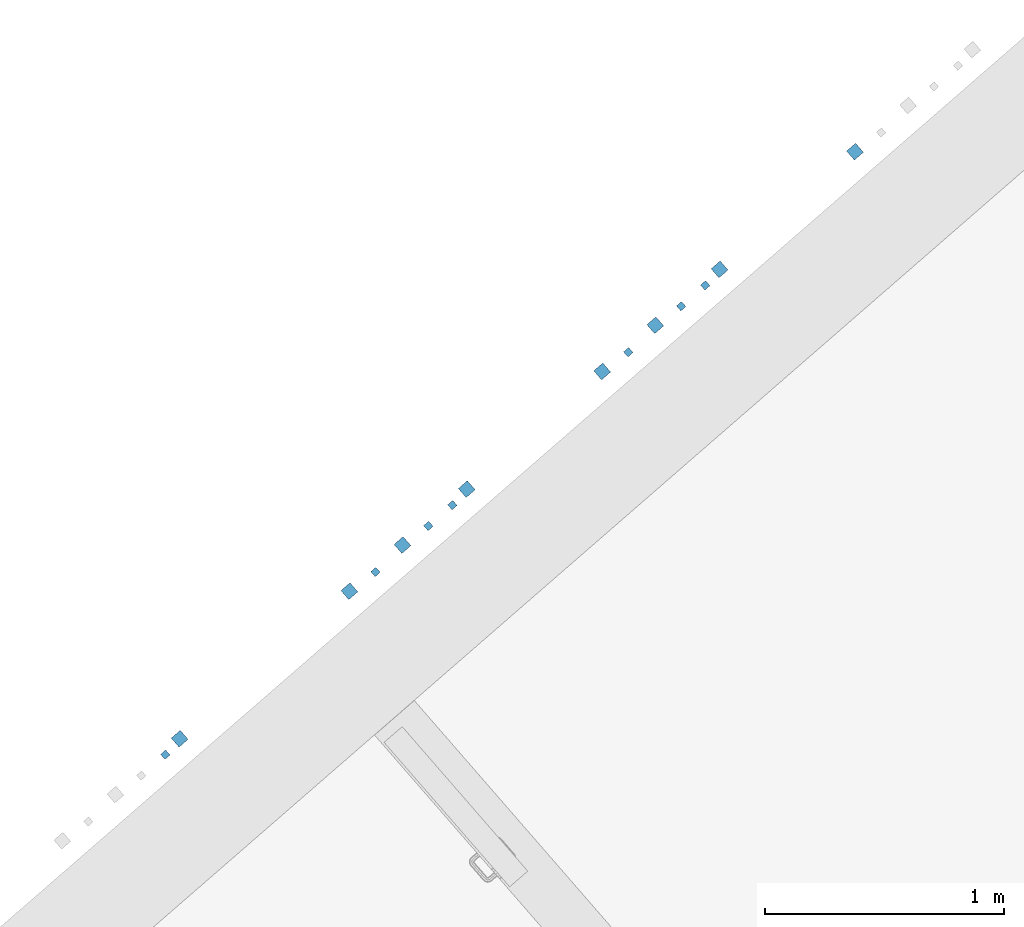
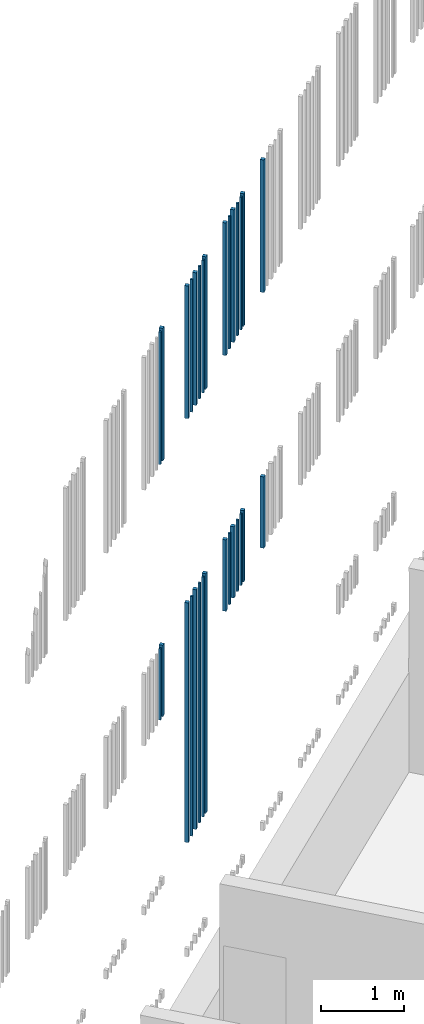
# One storey, part 57 of 124: 30 walls.
"""IFC2X3 building model written with IfcOpenShell, lengths in millimetres."""

import ifcopenshell
import ifcopenshell.guid

model = None  # the IFC model being written
_history = None  # IfcOwnerHistory: only IFC2X3 demands one
_inside = {}  # id of a spatial element -> (the spatial element, [elements in it])
_under = {}  # id of a project, library or spatial element -> (it, [spatial elements below it])
_declared = {}  # id of a project -> (the project, [libraries it declares])
_typed = {}  # id of a type object -> (the type object, [elements of that type])
_made_of = {}  # id of a material, layer set ... -> (it, [elements and type objects made of it])


def new_model(schema):
    """Start an empty IFC model of exactly this schema.

    Asked for "IFC4X3", IfcOpenShell would pick the latest addendum, in which some entities
    have other attributes; the version numbers below select the first issue.
    IFC2X3 requires an IfcOwnerHistory on every rooted entity: one is made here for all.
    """
    global model, _history
    if schema == "IFC4X3":
        model = ifcopenshell.file(schema_version=(4, 3, 0, 0))
    else:
        model = ifcopenshell.file(schema=schema)
    _inside.clear()
    _under.clear()
    _declared.clear()
    _typed.clear()
    _made_of.clear()
    _history = None
    if model.schema == "IFC2X3":
        org = make("IfcOrganization", Name="unknown")
        user = make(
            "IfcPersonAndOrganization",
            ThePerson=make("IfcPerson", FamilyName="unknown"),
            TheOrganization=org,
        )
        app = make(
            "IfcApplication",
            ApplicationDeveloper=org,
            Version="unknown",
            ApplicationFullName="unknown",
            ApplicationIdentifier="unknown",
        )
        _history = make(
            "IfcOwnerHistory",
            OwningUser=user,
            OwningApplication=app,
            ChangeAction="ADDED",
            CreationDate=0,
        )
    return model


def make(cls, **values):
    """One entity of the class cls with the attributes given. An attribute that is None is left unset."""
    return model.create_entity(
        cls, **{name: value for name, value in values.items() if value is not None}
    )


def entity(cls, *values):
    """Any entity or typed value of the class cls, its attributes in the order of the schema. None: left unset."""
    e = model.create_entity(cls)
    for i, value in enumerate(values):
        if value is not None:
            e[i] = value
    return e


def rooted(cls, **values):
    """An entity with a GlobalId (a new one), such as an element, a storey or a relation."""
    return make(cls, GlobalId=ifcopenshell.guid.new(), OwnerHistory=_history, **values)


def si_unit(unit_type, name, prefix=None):
    """IfcSIUnit, for example si_unit("LENGTHUNIT", "METRE", prefix="MILLI")."""
    return make("IfcSIUnit", UnitType=unit_type, Prefix=prefix, Name=name)


def converted_unit(unit_type, name, factor, base, dimensions=None, offset=None):
    """IfcConversionBasedUnit, such as the inch: factor (a typed value) times the base unit."""
    return make(
        "IfcConversionBasedUnit"
        if offset is None
        else "IfcConversionBasedUnitWithOffset",
        ConversionOffset=offset,
        Dimensions=None
        if dimensions is None
        else entity("IfcDimensionalExponents", *dimensions),
        UnitType=unit_type,
        Name=name,
        ConversionFactor=make(
            "IfcMeasureWithUnit", ValueComponent=factor, UnitComponent=base
        ),
    )


def derived_unit(unit_type, elements):
    """IfcDerivedUnit: a product of units, each with its exponent."""
    return make(
        "IfcDerivedUnit",
        Elements=[
            make("IfcDerivedUnitElement", Unit=unit, Exponent=power)
            for unit, power in elements
        ],
        UnitType=unit_type,
    )


def money_unit(currency):
    """IfcMonetaryUnit."""
    return make("IfcMonetaryUnit", Currency=currency)


def assignment(units):
    """IfcUnitAssignment: the units of a project."""
    return None if units is None else make("IfcUnitAssignment", Units=units)


def point(xyz):
    """IfcCartesianPoint."""
    return None if xyz is None else make("IfcCartesianPoint", Coordinates=xyz)


def direction(xyz):
    """IfcDirection."""
    return None if xyz is None else make("IfcDirection", DirectionRatios=xyz)


def frame(location, z_axis=None, x_axis=None):
    """IfcAxis2Placement3D, a coordinate frame: its origin and axes. An axis left out is left unset."""
    return make(
        "IfcAxis2Placement3D",
        Location=point(location),
        Axis=direction(z_axis),
        RefDirection=direction(x_axis),
    )


def origin_with_axes():
    """The frame at (0, 0, 0) with the z axis (0, 0, 1) and the x axis (1, 0, 0) written out."""
    return frame((0.0, 0.0, 0.0), z_axis=(0.0, 0.0, 1.0), x_axis=(1.0, 0.0, 0.0))


def place(relative_to, where):
    """IfcLocalPlacement: puts the frame where relative to a parent placement (None: the world)."""
    return make(
        "IfcLocalPlacement", PlacementRelTo=relative_to, RelativePlacement=where
    )


def context(
    kind, dimensions, precision=None, world=None, true_north=None, identifier=None
):
    """IfcGeometricRepresentationContext, for example the 3D "Model" context."""
    return make(
        "IfcGeometricRepresentationContext",
        ContextIdentifier=identifier,
        ContextType=kind,
        CoordinateSpaceDimension=dimensions,
        Precision=precision,
        WorldCoordinateSystem=world,
        TrueNorth=true_north,
    )


def subcontext(parent, identifier, kind, view, scale=None):
    """IfcGeometricRepresentationSubContext, for example "Body" below "Model"."""
    return make(
        "IfcGeometricRepresentationSubContext",
        ContextIdentifier=identifier,
        ContextType=kind,
        ParentContext=parent,
        TargetScale=scale,
        TargetView=view,
    )


def project(units=None, contexts=None):
    """IfcProject with its units and contexts."""
    return rooted(
        "IfcProject",
        Name="project",
        RepresentationContexts=contexts,
        UnitsInContext=assignment(units),
    )


def spatial(cls, under=None, at=None, **own):
    """A site, building, storey or space (cls), placed at a placement, below another one or the project."""
    s = rooted(cls, ObjectPlacement=at, **own)
    if under is not None:
        _under.setdefault(under.id(), (under, []))[1].append(s)
    return s


def faces_of(points, faces, orient=None, outer=None):
    """IfcFace entities. A face is a list of loops; a loop is a list of indices into points, from 0.

    orient and outer hold one flag for each loop. By default every Orientation is true, the
    first loop of a face is its IfcFaceOuterBound and the others are IfcFaceBound.
    """
    made = []
    for i, loops in enumerate(faces):
        bounds = []
        for j, loop in enumerate(loops):
            is_outer = j == 0 if outer is None else outer[i][j]
            bounds.append(
                make(
                    "IfcFaceOuterBound" if is_outer else "IfcFaceBound",
                    Bound=make("IfcPolyLoop", Polygon=[points[k] for k in loop]),
                    Orientation=True if orient is None else orient[i][j],
                )
            )
        made.append(make("IfcFace", Bounds=bounds))
    return made


def faceted_brep(points, faces, orient=None, outer=None, voids=None):
    """IfcFacetedBrep: a solid bounded by flat faces; with voids (closed shells), ...WithVoids."""
    shared = [point(p) for p in points]
    hull = make("IfcClosedShell", CfsFaces=faces_of(shared, faces, orient, outer))
    if voids is None:
        return make("IfcFacetedBrep", Outer=hull)
    return make(
        "IfcFacetedBrepWithVoids",
        Outer=hull,
        Voids=[
            make(cls, CfsFaces=faces_of(shared, fs, o, b)) for cls, fs, o, b in voids
        ],
    )


def shape(context_of_items, identifier, shape_type, items):
    """IfcShapeRepresentation: the items that make up one representation, for example the "Body"."""
    return make(
        "IfcShapeRepresentation",
        ContextOfItems=context_of_items,
        RepresentationIdentifier=identifier,
        RepresentationType=shape_type,
        Items=items,
    )


def material(Name=None, Category=None):
    """IfcMaterial."""
    return make("IfcMaterial", Name=Name, Category=Category)


def made_of(thing, what):
    """Note that an element or type object is made of a material, layer set ...; save() writes the relation."""
    if what is not None:
        _made_of.setdefault(what.id(), (what, []))[1].append(thing)
    return thing


def type_object(cls, material=None, **own):
    """A type object (cls), such as IfcWallType, which elements share."""
    return made_of(rooted(cls, **own), material)


def element(
    cls,
    number,
    at=None,
    inside=None,
    cuts=None,
    type_object=None,
    material=None,
    context=None,
    identifier="Body",
    shape_type=None,
    held_by="IfcProductDefinitionShape",
    body=None,
    shapes=None,
    **own,
):
    """One element of the class cls, such as IfcWall. Its Tag is "e" and its number.

    at: its placement. inside: the storey or other place that contains it. cuts: it is an
    opening in that element (IfcRelVoidsElement). A single representation is given by context,
    identifier, shape_type and body (its items); several are given by shapes. held_by: the class
    of the entity that holds the representations. save() writes the other relations.
    """
    e = rooted(cls, Tag="e%d" % number, ObjectPlacement=at, **own)
    if body is not None:
        shapes = [shape(context, identifier, shape_type, body)]
    if shapes is not None:
        e.Representation = make(held_by, Representations=shapes)
    if inside is not None:
        _inside.setdefault(inside.id(), (inside, []))[1].append(e)
    if cuts is not None:
        rooted(
            "IfcRelVoidsElement", RelatingBuildingElement=cuts, RelatedOpeningElement=e
        )
    if type_object is not None:
        _typed.setdefault(type_object.id(), (type_object, []))[1].append(e)
    return made_of(e, material)


def aggregate(whole, parts):
    """IfcRelAggregates: a whole, such as a stair, and the parts it consists of."""
    return rooted("IfcRelAggregates", RelatingObject=whole, RelatedObjects=parts)


def save(model, path):
    """Write the relations noted so far, then the file.

    IfcRelAggregates (storeys below a building ...), IfcRelContainedInSpatialStructure (elements
    in a storey), IfcRelDefinesByType, IfcRelAssociatesMaterial and IfcRelDeclares: one each for
    every whole, place, type object, material and project.
    """
    for whole, parts in _under.values():
        aggregate(whole, parts)
    for where, things in _inside.values():
        rooted(
            "IfcRelContainedInSpatialStructure",
            RelatedElements=things,
            RelatingStructure=where,
        )
    for kind, things in _typed.values():
        rooted("IfcRelDefinesByType", RelatedObjects=things, RelatingType=kind)
    for what, things in _made_of.values():
        rooted("IfcRelAssociatesMaterial", RelatedObjects=things, RelatingMaterial=what)
    for by, libraries in _declared.values():
        rooted("IfcRelDeclares", RelatingContext=by, RelatedDefinitions=libraries)
    model.write(path)


model = new_model("IFC2X3")

# Units and contexts
model_context = context("Model", 3, precision=1e-05, world=origin_with_axes(), true_north=direction((0.0, 1.0)))
body_context = subcontext(model_context, "Body", "Model", "MODEL_VIEW")
ifc_project = project(units=[si_unit("LENGTHUNIT", "METRE", prefix="MILLI"), si_unit("AREAUNIT", "SQUARE_METRE"), si_unit("VOLUMEUNIT", "CUBIC_METRE"), converted_unit("PLANEANGLEUNIT", "DEGREE", entity("IfcPlaneAngleMeasure", 0.0174532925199), si_unit("PLANEANGLEUNIT", "RADIAN"), dimensions=[0, 0, 0, 0, 0, 0, 0]), si_unit("SOLIDANGLEUNIT", "STERADIAN"), money_unit("EUR"), converted_unit("TIMEUNIT", "Year", entity("IfcTimeMeasure", 31556926.0), si_unit("TIMEUNIT", "SECOND"), dimensions=[0, 0, 1, 0, 0, 0, 0]), si_unit("MASSUNIT", "GRAM", prefix="KILO"), si_unit("THERMODYNAMICTEMPERATUREUNIT", "DEGREE_CELSIUS"), si_unit("LUMINOUSINTENSITYUNIT", "LUMEN"), si_unit("ENERGYUNIT", "JOULE", prefix="MEGA"), derived_unit("THERMALCONDUCTANCEUNIT", [(si_unit("POWERUNIT", "WATT"), 1), (si_unit("LENGTHUNIT", "METRE"), -1), (si_unit("THERMODYNAMICTEMPERATUREUNIT", "KELVIN"), -1)]), derived_unit("SPECIFICHEATCAPACITYUNIT", [(si_unit("ENERGYUNIT", "JOULE"), 1), (si_unit("MASSUNIT", "GRAM", prefix="KILO"), -1), (si_unit("THERMODYNAMICTEMPERATUREUNIT", "KELVIN"), -1)]), derived_unit("MASSDENSITYUNIT", [(si_unit("MASSUNIT", "GRAM", prefix="KILO"), 1), (si_unit("VOLUMEUNIT", "CUBIC_METRE"), -1)])], contexts=[model_context])

# Site, building, storey
site_placement = place(None, origin_with_axes())
site = spatial("IfcSite", under=ifc_project, at=site_placement, Name="Site", CompositionType="ELEMENT")
building_placement = place(site_placement, origin_with_axes())
building = spatial("IfcBuilding", under=site, at=building_placement, Name="Building", CompositionType="ELEMENT")
storey_placement = place(building_placement, frame((0.0, 0.0, -1615.0), z_axis=(0.0, 0.0, 1.0), x_axis=(1.0, 0.0, 0.0)))
storey = spatial("IfcBuildingStorey", under=building, at=storey_placement, Name="0  korrus", CompositionType="ELEMENT", Elevation=-1615.0)

# Walls
ifc_material = material(Name="Site specified")
wall_type = type_object("IfcWallType", Name="Puitfassaadi ribistik", PredefinedType="NOTDEFINED")
wall_1_placement = place(storey_placement, frame((153514.069, 103484.16004, 9530.0), z_axis=(0.0, 0.0, 1.0), x_axis=(0.754709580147, 0.656059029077, 0.0)))
element("IfcWall", 1, at=wall_1_placement, inside=storey, type_object=wall_type, material=ifc_material, Name="Site specified", context=body_context, shape_type="Brep", body=[
    faceted_brep([(25.0, 25.0, 1950.0), (25.0, 25.0, 0.0), (-25.0, 25.0, 0.0), (-25.0, 25.0, 1950.0), (25.0, -25.0, 1950.0), (25.0, -25.0, 0.0), (-25.0, -25.0, 0.0), (-25.0, -25.0, 1950.0)], [[[0, 1, 2, 3]], [[4, 5, 1, 0]], [[2, 1, 5, 6]], [[3, 2, 6, 7]], [[4, 0, 3, 7]], [[7, 6, 5, 4]]]),
])
wall_2_placement = place(storey_placement, frame((153401.288708, 103371.546484, 9530.0), z_axis=(0.0, 0.0, 1.0), x_axis=(0.754709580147, 0.656059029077, 0.0)))
element("IfcWall", 2, at=wall_2_placement, inside=storey, type_object=wall_type, material=ifc_material, Name="Site specified", context=body_context, shape_type="Brep", body=[
    faceted_brep([(14.0, 14.0, 1950.0), (14.0, 14.0, 0.0), (-14.0, 14.0, 0.0), (-14.0, 14.0, 1950.0), (14.0, -14.0, 1950.0), (14.0, -14.0, 0.0), (-14.0, -14.0, 0.0), (-14.0, -14.0, 1950.0)], [[[0, 1, 2, 3]], [[4, 5, 1, 0]], [[2, 1, 5, 6]], [[3, 2, 6, 7]], [[4, 0, 3, 7]], [[7, 6, 5, 4]]]),
])
wall_3_placement = place(storey_placement, frame((153722.794966, 103651.027611, 5771.0), z_axis=(0.0, 0.0, 1.0), x_axis=(0.754709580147, 0.656059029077, 0.0)))
element("IfcWall", 3, at=wall_3_placement, inside=storey, type_object=wall_type, material=ifc_material, Name="Site specified", context=body_context, shape_type="Brep", body=[
    faceted_brep([(14.0, 14.0, 1050.0), (14.0, 14.0, 0.0), (-14.0, 14.0, 0.0), (-14.0, 14.0, 1050.0), (14.0, -14.0, 1050.0), (14.0, -14.0, 0.0), (-14.0, -14.0, 0.0), (-14.0, -14.0, 1050.0)], [[[0, 1, 2, 3]], [[4, 5, 1, 0]], [[2, 1, 5, 6]], [[3, 2, 6, 7]], [[4, 0, 3, 7]], [[7, 6, 5, 4]]]),
])
for number, where, z_axis, x_axis, name in (
    (4, (153782.749862, 103717.72075, 5771.0), (0.0, 0.0, 1.0), (0.754709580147, 0.656059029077, 0.0), "Site specified"),
    (5, (153514.069, 103484.16004, 5771.0), (0.0, 0.0, 1.0), (0.754709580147, 0.656059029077, 0.0), "Site specified"),
):
    element("IfcWall", number, at=place(storey_placement, frame(where, z_axis=z_axis, x_axis=x_axis)), inside=storey, type_object=wall_type, material=ifc_material, Name=name, context=body_context, shape_type="Brep", body=[
        faceted_brep([(25.0, 25.0, 1050.0), (25.0, 25.0, 0.0), (-25.0, 25.0, 0.0), (-25.0, 25.0, 1050.0), (25.0, -25.0, 1050.0), (25.0, -25.0, 0.0), (-25.0, -25.0, 0.0), (-25.0, -25.0, 1050.0)], [[[0, 1, 2, 3]], [[4, 5, 1, 0]], [[2, 1, 5, 6]], [[3, 2, 6, 7]], [[4, 0, 3, 7]], [[7, 6, 5, 4]]]),
    ])
wall_4_placement = place(storey_placement, frame((153401.288708, 103371.546484, 5771.0), z_axis=(0.0, 0.0, 1.0), x_axis=(0.754709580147, 0.656059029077, 0.0)))
element("IfcWall", 6, at=wall_4_placement, inside=storey, type_object=wall_type, material=ifc_material, Name="Site specified", context=body_context, shape_type="Brep", body=[
    faceted_brep([(14.0, 14.0, 1050.0), (14.0, 14.0, 0.0), (-14.0, 14.0, 0.0), (-14.0, 14.0, 1050.0), (14.0, -14.0, 1050.0), (14.0, -14.0, 0.0), (-14.0, -14.0, 0.0), (-14.0, -14.0, 1050.0)], [[[0, 1, 2, 3]], [[4, 5, 1, 0]], [[2, 1, 5, 6]], [[3, 2, 6, 7]], [[4, 0, 3, 7]], [[7, 6, 5, 4]]]),
])
wall_5_placement = place(storey_placement, frame((153722.794966, 103651.027611, 9530.0), z_axis=(0.0, 0.0, 1.0), x_axis=(0.754709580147, 0.656059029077, 0.0)))
element("IfcWall", 7, at=wall_5_placement, inside=storey, type_object=wall_type, material=ifc_material, Name="Site specified", context=body_context, shape_type="Brep", body=[
    faceted_brep([(14.0, 14.0, 1950.0), (14.0, 14.0, 0.0), (-14.0, 14.0, 0.0), (-14.0, 14.0, 1950.0), (14.0, -14.0, 1950.0), (14.0, -14.0, 0.0), (-14.0, -14.0, 0.0), (-14.0, -14.0, 1950.0)], [[[0, 1, 2, 3]], [[4, 5, 1, 0]], [[2, 1, 5, 6]], [[3, 2, 6, 7]], [[4, 0, 3, 7]], [[7, 6, 5, 4]]]),
])
wall_6_placement = place(storey_placement, frame((153782.749862, 103717.72075, 9530.0), z_axis=(0.0, 0.0, 1.0), x_axis=(0.754709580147, 0.656059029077, 0.0)))
element("IfcWall", 8, at=wall_6_placement, inside=storey, type_object=wall_type, material=ifc_material, Name="Site specified", context=body_context, shape_type="Brep", body=[
    faceted_brep([(25.0, 25.0, 1950.0), (25.0, 25.0, 0.0), (-25.0, 25.0, 0.0), (-25.0, 25.0, 1950.0), (25.0, -25.0, 1950.0), (25.0, -25.0, 0.0), (-25.0, -25.0, 0.0), (-25.0, -25.0, 1950.0)], [[[0, 1, 2, 3]], [[4, 5, 1, 0]], [[2, 1, 5, 6]], [[3, 2, 6, 7]], [[4, 0, 3, 7]], [[7, 6, 5, 4]]]),
])
wall_7_placement = place(storey_placement, frame((153622.418593, 103563.771761, 9530.0), z_axis=(0.0, 0.0, 1.0), x_axis=(0.754709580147, 0.656059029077, 0.0)))
element("IfcWall", 9, at=wall_7_placement, inside=storey, type_object=wall_type, material=ifc_material, Name="Site specified", context=body_context, shape_type="Brep", body=[
    faceted_brep([(14.0, 14.0, 1950.0), (14.0, 14.0, 0.0), (-14.0, 14.0, 0.0), (-14.0, 14.0, 1950.0), (14.0, -14.0, 1950.0), (14.0, -14.0, 0.0), (-14.0, -14.0, 0.0), (-14.0, -14.0, 1950.0)], [[[0, 1, 2, 3]], [[4, 5, 1, 0]], [[2, 1, 5, 6]], [[3, 2, 6, 7]], [[4, 0, 3, 7]], [[7, 6, 5, 4]]]),
])
wall_8_placement = place(storey_placement, frame((153292.184385, 103291.278687, 9530.0), z_axis=(0.0, 0.0, 1.0), x_axis=(0.754709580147, 0.656059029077, 0.0)))
element("IfcWall", 10, at=wall_8_placement, inside=storey, type_object=wall_type, material=ifc_material, Name="Site specified", context=body_context, shape_type="Brep", body=[
    faceted_brep([(25.0, 25.0, 1950.0), (25.0, 25.0, 0.0), (-25.0, 25.0, 0.0), (-25.0, 25.0, 1950.0), (25.0, -25.0, 1950.0), (25.0, -25.0, 0.0), (-25.0, -25.0, 0.0), (-25.0, -25.0, 1950.0)], [[[0, 1, 2, 3]], [[4, 5, 1, 0]], [[2, 1, 5, 6]], [[3, 2, 6, 7]], [[4, 0, 3, 7]], [[7, 6, 5, 4]]]),
])
wall_9_placement = place(storey_placement, frame((153622.418593, 103563.771761, 5771.0), z_axis=(0.0, 0.0, 1.0), x_axis=(0.754709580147, 0.656059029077, 0.0)))
element("IfcWall", 11, at=wall_9_placement, inside=storey, type_object=wall_type, material=ifc_material, Name="Site specified", context=body_context, shape_type="Brep", body=[
    faceted_brep([(14.0, 14.0, 1050.0), (14.0, 14.0, 0.0), (-14.0, 14.0, 0.0), (-14.0, 14.0, 1050.0), (14.0, -14.0, 1050.0), (14.0, -14.0, 0.0), (-14.0, -14.0, 0.0), (-14.0, -14.0, 1050.0)], [[[0, 1, 2, 3]], [[4, 5, 1, 0]], [[2, 1, 5, 6]], [[3, 2, 6, 7]], [[4, 0, 3, 7]], [[7, 6, 5, 4]]]),
])
wall_10_placement = place(storey_placement, frame((154348.777795, 104209.761325, 9530.0), z_axis=(0.0, 0.0, 1.0), x_axis=(0.754709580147, 0.656059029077, 0.0)))
element("IfcWall", 12, at=wall_10_placement, inside=storey, type_object=wall_type, material=ifc_material, Name="Site specified", context=body_context, shape_type="Brep", body=[
    faceted_brep([(25.0, 25.0, 1950.0), (25.0, 25.0, 0.0), (-25.0, 25.0, 0.0), (-25.0, 25.0, 1950.0), (25.0, -25.0, 1950.0), (25.0, -25.0, 0.0), (-25.0, -25.0, 0.0), (-25.0, -25.0, 1950.0)], [[[0, 1, 2, 3]], [[4, 5, 1, 0]], [[2, 1, 5, 6]], [[3, 2, 6, 7]], [[4, 0, 3, 7]], [[7, 6, 5, 4]]]),
])
for number, where, z_axis, x_axis, name in (
    (13, (154348.777795, 104209.761325, 5771.0), (0.0, 0.0, 1.0), (0.754709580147, 0.656059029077, 0.0), "Site specified"),
    (14, (153292.184385, 103291.278687, 5771.0), (0.0, 0.0, 1.0), (0.754709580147, 0.656059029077, 0.0), "Site specified"),
):
    element("IfcWall", number, at=place(storey_placement, frame(where, z_axis=z_axis, x_axis=x_axis)), inside=storey, type_object=wall_type, material=ifc_material, Name=name, context=body_context, shape_type="Brep", body=[
        faceted_brep([(25.0, 25.0, 1050.0), (25.0, 25.0, 0.0), (-25.0, 25.0, 0.0), (-25.0, 25.0, 1050.0), (25.0, -25.0, 1050.0), (25.0, -25.0, 0.0), (-25.0, -25.0, 0.0), (-25.0, -25.0, 1050.0)], [[[0, 1, 2, 3]], [[4, 5, 1, 0]], [[2, 1, 5, 6]], [[3, 2, 6, 7]], [[4, 0, 3, 7]], [[7, 6, 5, 4]]]),
    ])
wall_11_placement = place(storey_placement, frame((151526.168218, 101756.104253, 9530.0), z_axis=(0.0, 0.0, 1.0), x_axis=(0.754709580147, 0.656059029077, 0.0)))
element("IfcWall", 15, at=wall_11_placement, inside=storey, type_object=wall_type, material=ifc_material, Name="Site specified", context=body_context, shape_type="Brep", body=[
    faceted_brep([(25.0, 25.0, 1950.0), (25.0, 25.0, 0.0), (-25.0, 25.0, 0.0), (-25.0, 25.0, 1950.0), (25.0, -25.0, 1950.0), (25.0, -25.0, 0.0), (-25.0, -25.0, 0.0), (-25.0, -25.0, 1950.0)], [[[0, 1, 2, 3]], [[4, 5, 1, 0]], [[2, 1, 5, 6]], [[3, 2, 6, 7]], [[4, 0, 3, 7]], [[7, 6, 5, 4]]]),
])
wall_12_placement = place(storey_placement, frame((151466.213322, 101689.411114, 9530.0), z_axis=(0.0, 0.0, 1.0), x_axis=(0.754709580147, 0.656059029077, 0.0)))
element("IfcWall", 16, at=wall_12_placement, inside=storey, type_object=wall_type, material=ifc_material, Name="Site specified", context=body_context, shape_type="Brep", body=[
    faceted_brep([(14.0, 14.0, 1950.0), (14.0, 14.0, 0.0), (-14.0, 14.0, 0.0), (-14.0, 14.0, 1950.0), (14.0, -14.0, 1950.0), (14.0, -14.0, 0.0), (-14.0, -14.0, 0.0), (-14.0, -14.0, 1950.0)], [[[0, 1, 2, 3]], [[4, 5, 1, 0]], [[2, 1, 5, 6]], [[3, 2, 6, 7]], [[4, 0, 3, 7]], [[7, 6, 5, 4]]]),
])
wall_13_placement = place(storey_placement, frame((151526.168218, 101756.104253, 5771.0), z_axis=(0.0, 0.0, 1.0), x_axis=(0.754709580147, 0.656059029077, 0.0)))
element("IfcWall", 17, at=wall_13_placement, inside=storey, type_object=wall_type, material=ifc_material, Name="Site specified", context=body_context, shape_type="Brep", body=[
    faceted_brep([(25.0, 25.0, 1050.0), (25.0, 25.0, 0.0), (-25.0, 25.0, 0.0), (-25.0, 25.0, 1050.0), (25.0, -25.0, 1050.0), (25.0, -25.0, 0.0), (-25.0, -25.0, 0.0), (-25.0, -25.0, 1050.0)], [[[0, 1, 2, 3]], [[4, 5, 1, 0]], [[2, 1, 5, 6]], [[3, 2, 6, 7]], [[4, 0, 3, 7]], [[7, 6, 5, 4]]]),
])
wall_14_placement = place(storey_placement, frame((151466.213322, 101689.411114, 5771.0), z_axis=(0.0, 0.0, 1.0), x_axis=(0.754709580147, 0.656059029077, 0.0)))
element("IfcWall", 18, at=wall_14_placement, inside=storey, type_object=wall_type, material=ifc_material, Name="Site specified", context=body_context, shape_type="Brep", body=[
    faceted_brep([(14.0, 14.0, 1050.0), (14.0, 14.0, 0.0), (-14.0, 14.0, 0.0), (-14.0, 14.0, 1050.0), (14.0, -14.0, 1050.0), (14.0, -14.0, 0.0), (-14.0, -14.0, 0.0), (-14.0, -14.0, 1050.0)], [[[0, 1, 2, 3]], [[4, 5, 1, 0]], [[2, 1, 5, 6]], [[3, 2, 6, 7]], [[4, 0, 3, 7]], [[7, 6, 5, 4]]]),
])
for number, where, z_axis, x_axis, name in (
    (19, (152457.475588, 102565.677399, 9530.0), (0.0, 0.0, 1.0), (0.754709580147, 0.656059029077, 0.0), "Site specified"),
    (20, (152726.15645, 102799.238109, 9530.0), (0.0, 0.0, 1.0), (0.754709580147, 0.656059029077, 0.0), "Site specified"),
):
    element("IfcWall", number, at=place(storey_placement, frame(where, z_axis=z_axis, x_axis=x_axis)), inside=storey, type_object=wall_type, material=ifc_material, Name=name, context=body_context, shape_type="Brep", body=[
        faceted_brep([(25.0, 25.0, 1950.0), (25.0, 25.0, 0.0), (-25.0, 25.0, 0.0), (-25.0, 25.0, 1950.0), (25.0, -25.0, 1950.0), (25.0, -25.0, 0.0), (-25.0, -25.0, 0.0), (-25.0, -25.0, 1950.0)], [[[0, 1, 2, 3]], [[4, 5, 1, 0]], [[2, 1, 5, 6]], [[3, 2, 6, 7]], [[4, 0, 3, 7]], [[7, 6, 5, 4]]]),
    ])
for number, where, z_axis, x_axis, name in (
    (21, (152565.825181, 102645.28912, 9530.0), (0.0, 0.0, 1.0), (0.754709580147, 0.656059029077, 0.0), "Site specified"),
    (22, (152666.201554, 102732.54497, 9530.0), (0.0, 0.0, 1.0), (0.754709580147, 0.656059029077, 0.0), "Site specified"),
    (23, (152344.695295, 102453.063844, 9530.0), (0.0, 0.0, 1.0), (0.754709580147, 0.656059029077, 0.0), "Site specified"),
):
    element("IfcWall", number, at=place(storey_placement, frame(where, z_axis=z_axis, x_axis=x_axis)), inside=storey, type_object=wall_type, material=ifc_material, Name=name, context=body_context, shape_type="Brep", body=[
        faceted_brep([(14.0, 14.0, 1950.0), (14.0, 14.0, 0.0), (-14.0, 14.0, 0.0), (-14.0, 14.0, 1950.0), (14.0, -14.0, 1950.0), (14.0, -14.0, 0.0), (-14.0, -14.0, 0.0), (-14.0, -14.0, 1950.0)], [[[0, 1, 2, 3]], [[4, 5, 1, 0]], [[2, 1, 5, 6]], [[3, 2, 6, 7]], [[4, 0, 3, 7]], [[7, 6, 5, 4]]]),
    ])
for number, where, z_axis, x_axis, name in (
    (24, (152457.475588, 102565.677399, 3295.66110235), (0.0, 0.0, 1.0), (0.754709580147, 0.656059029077, 0.0), "Site specified"),
    (25, (152726.15645, 102799.238109, 3295.66110235), (0.0, 0.0, 1.0), (0.754709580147, 0.656059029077, 0.0), "Site specified"),
):
    element("IfcWall", number, at=place(storey_placement, frame(where, z_axis=z_axis, x_axis=x_axis)), inside=storey, type_object=wall_type, material=ifc_material, Name=name, context=body_context, shape_type="Brep", body=[
        faceted_brep([(25.0, 25.0, 3525.33889765), (25.0, 25.0, 0.0), (-25.0, 25.0, 0.0), (-25.0, 25.0, 3525.33889765), (25.0, -25.0, 3525.33889765), (25.0, -25.0, 0.0), (-25.0, -25.0, 0.0), (-25.0, -25.0, 3525.33889765)], [[[0, 1, 2, 3]], [[4, 5, 1, 0]], [[2, 1, 5, 6]], [[3, 2, 6, 7]], [[4, 0, 3, 7]], [[7, 6, 5, 4]]]),
    ])
for number, where, z_axis, x_axis, name in (
    (26, (152565.825181, 102645.28912, 3295.66110235), (0.0, 0.0, 1.0), (0.754709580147, 0.656059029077, 0.0), "Site specified"),
    (27, (152666.201554, 102732.54497, 3295.66110235), (0.0, 0.0, 1.0), (0.754709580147, 0.656059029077, 0.0), "Site specified"),
    (28, (152344.695295, 102453.063844, 3295.66110235), (0.0, 0.0, 1.0), (0.754709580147, 0.656059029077, 0.0), "Site specified"),
):
    element("IfcWall", number, at=place(storey_placement, frame(where, z_axis=z_axis, x_axis=x_axis)), inside=storey, type_object=wall_type, material=ifc_material, Name=name, context=body_context, shape_type="Brep", body=[
        faceted_brep([(14.0, 14.0, 3525.33889765), (14.0, 14.0, 0.0), (-14.0, 14.0, 0.0), (-14.0, 14.0, 3525.33889765), (14.0, -14.0, 3525.33889765), (14.0, -14.0, 0.0), (-14.0, -14.0, 0.0), (-14.0, -14.0, 3525.33889765)], [[[0, 1, 2, 3]], [[4, 5, 1, 0]], [[2, 1, 5, 6]], [[3, 2, 6, 7]], [[4, 0, 3, 7]], [[7, 6, 5, 4]]]),
    ])
wall_15_placement = place(storey_placement, frame((152235.590973, 102372.796046, 3295.66110235), z_axis=(0.0, 0.0, 1.0), x_axis=(0.754709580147, 0.656059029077, 0.0)))
element("IfcWall", 29, at=wall_15_placement, inside=storey, type_object=wall_type, material=ifc_material, Name="Site specified", context=body_context, shape_type="Brep", body=[
    faceted_brep([(25.0, 25.0, 3525.33889765), (25.0, 25.0, 0.0), (-25.0, 25.0, 0.0), (-25.0, 25.0, 3525.33889765), (25.0, -25.0, 3525.33889765), (25.0, -25.0, 0.0), (-25.0, -25.0, 0.0), (-25.0, -25.0, 3525.33889765)], [[[0, 1, 2, 3]], [[4, 5, 1, 0]], [[2, 1, 5, 6]], [[3, 2, 6, 7]], [[4, 0, 3, 7]], [[7, 6, 5, 4]]]),
])
wall_16_placement = place(storey_placement, frame((152235.590973, 102372.796046, 9530.0), z_axis=(0.0, 0.0, 1.0), x_axis=(0.754709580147, 0.656059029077, 0.0)))
element("IfcWall", 30, at=wall_16_placement, inside=storey, type_object=wall_type, material=ifc_material, Name="Site specified", context=body_context, shape_type="Brep", body=[
    faceted_brep([(25.0, 25.0, 1950.0), (25.0, 25.0, 0.0), (-25.0, 25.0, 0.0), (-25.0, 25.0, 1950.0), (25.0, -25.0, 1950.0), (25.0, -25.0, 0.0), (-25.0, -25.0, 0.0), (-25.0, -25.0, 1950.0)], [[[0, 1, 2, 3]], [[4, 5, 1, 0]], [[2, 1, 5, 6]], [[3, 2, 6, 7]], [[4, 0, 3, 7]], [[7, 6, 5, 4]]]),
])

save(model, "model.ifc")
